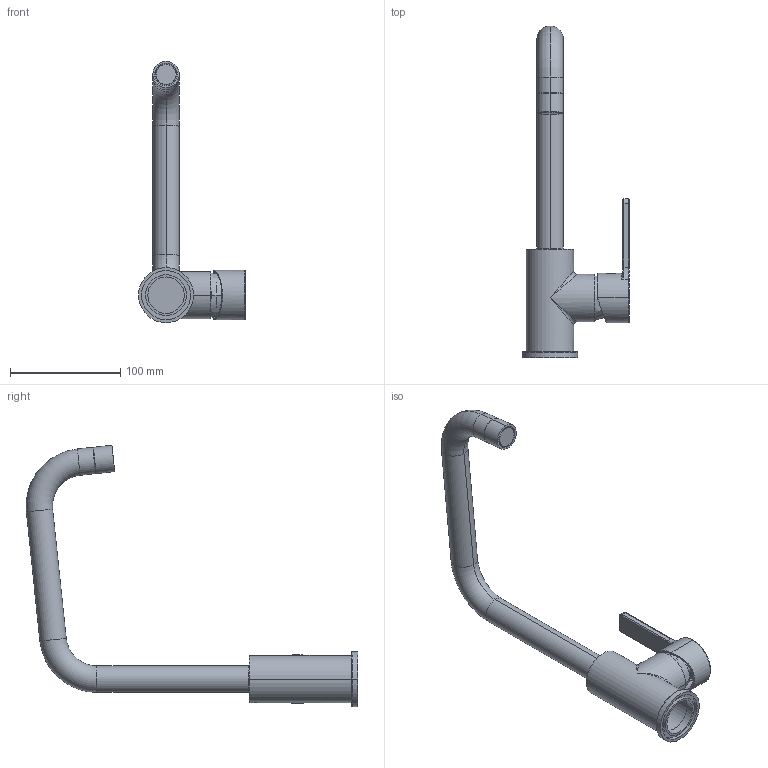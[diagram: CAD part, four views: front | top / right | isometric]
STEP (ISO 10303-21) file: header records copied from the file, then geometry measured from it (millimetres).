
FILE_DESCRIPTION(/* description */ (''),/* implementation_level */ '2;1');
FILE_NAME(/* name */ 'miscelatore mi1.stp',/* time_stamp */ '2019-07-19T14:25:53+02:00',/* author */ (''),/* organization */ (''),/* preprocessor_version */ 'ST-DEVELOPER v16',/* originating_system */ 'SIEMENS PLM Software NX 11.0',/* authorisation */ '');
FILE_SCHEMA (('AUTOMOTIVE_DESIGN { 1 0 10303 214 3 1 1 1 }'));
Length unit declared in the file: millimetre
Products named in the file (1): gobb28F8B8BCvq1i
Bounding box: 97.1 x 301.08 x 237.29 mm (x, y, z)
Volume: 175779.2 mm3; surface area: 113343.4 mm2
Topology: 3 solids, 3 shells, 1106 faces, 2772 edges, 1726 vertices
Faces by surface type: plane 610, cylinder 182, torus 116, bspline 111, sphere 32, cone 32, extrusion 23
Entity records: 39729 total; most frequent: CARTESIAN_POINT 13803, ORIENTED_EDGE 5536, DIRECTION 5145, EDGE_CURVE 2768, VECTOR 1815, LINE 1792, VERTEX_POINT 1726, AXIS2_PLACEMENT_3D 1665
